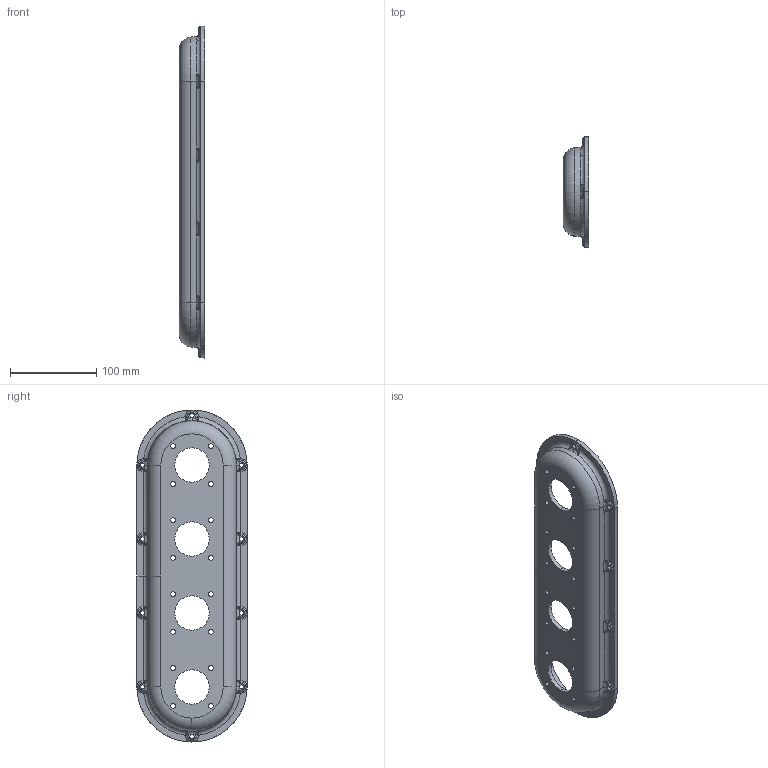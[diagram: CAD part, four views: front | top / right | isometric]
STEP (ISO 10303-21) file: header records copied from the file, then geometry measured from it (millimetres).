
FILE_DESCRIPTION (( 'STEP AP203' ), '1' );
FILE_NAME ('Lehmann turbo manifold MX-5 Miata F40 plenum back.STEP', '2025-03-13T13:44:47', ( '' ), ( '' ), 'SwSTEP 2.0', 'SolidWorks 2019', '' );
FILE_SCHEMA (( 'CONFIG_CONTROL_DESIGN' ));
Length unit declared in the file: millimetre
Products named in the file (1): Lehmann turbo manifold MX-5 Miata F40 plenum back
Bounding box: 30 x 128 x 386 mm (x, y, z)
Volume: 283211.4 mm3; surface area: 119253.1 mm2
Topology: 1 solids, 1 shells, 358 faces, 883 edges, 503 vertices
Faces by surface type: cylinder 136, bspline 122, torus 57, plane 37, cone 6
Entity records: 14436 total; most frequent: CARTESIAN_POINT 6483, ORIENTED_EDGE 1726, DIRECTION 1601, EDGE_CURVE 863, AXIS2_PLACEMENT_3D 689, VERTEX_POINT 503, CIRCLE 452, EDGE_LOOP 414
